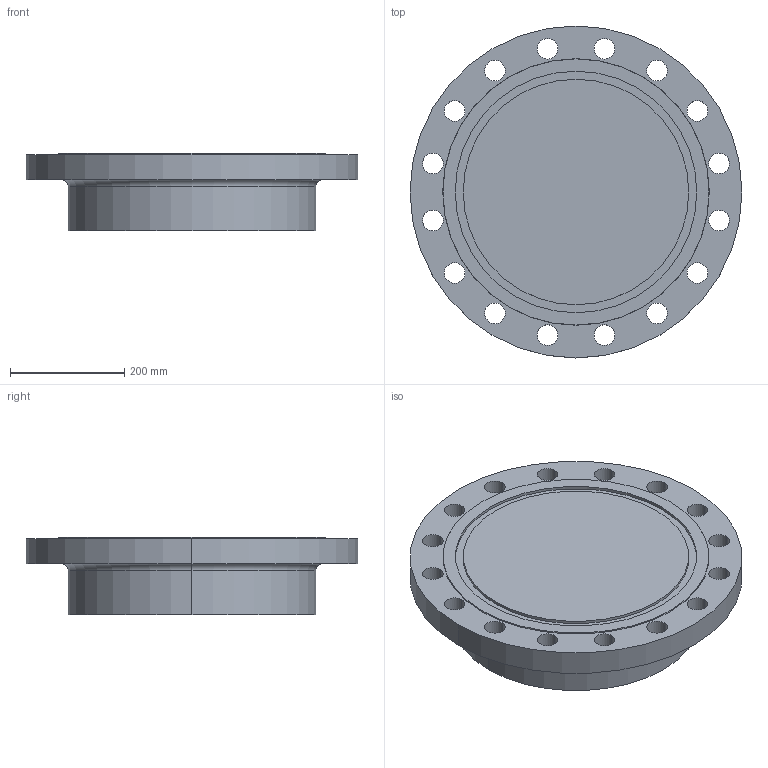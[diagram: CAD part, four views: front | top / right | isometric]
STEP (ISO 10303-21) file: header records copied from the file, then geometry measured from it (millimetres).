
FILE_DESCRIPTION (( 'STEP AP214' ), '1' );
FILE_NAME ('PN40 DN350 Type 21(i) - Type D Face.STEP', '2019-01-05T21:46:23', ( '' ), ( '' ), 'SwSTEP 2.0', 'SolidWorks 2019', '' );
FILE_SCHEMA (( 'AUTOMOTIVE_DESIGN' ));
Length unit declared in the file: millimetre
Products named in the file (1): PN40 DN350 Type 21(i) - Type D Face
Bounding box: 580 x 580 x 135 mm (x, y, z)
Volume: 24246561.3 mm3; surface area: 784771 mm2
Topology: 1 solids, 1 shells, 50 faces, 130 edges, 86 vertices
Faces by surface type: cylinder 40, plane 6, torus 2, cone 2
Entity records: 1684 total; most frequent: DIRECTION 320, CARTESIAN_POINT 267, ORIENTED_EDGE 260, AXIS2_PLACEMENT_3D 139, EDGE_CURVE 130, CIRCLE 88, EDGE_LOOP 86, VERTEX_POINT 86
